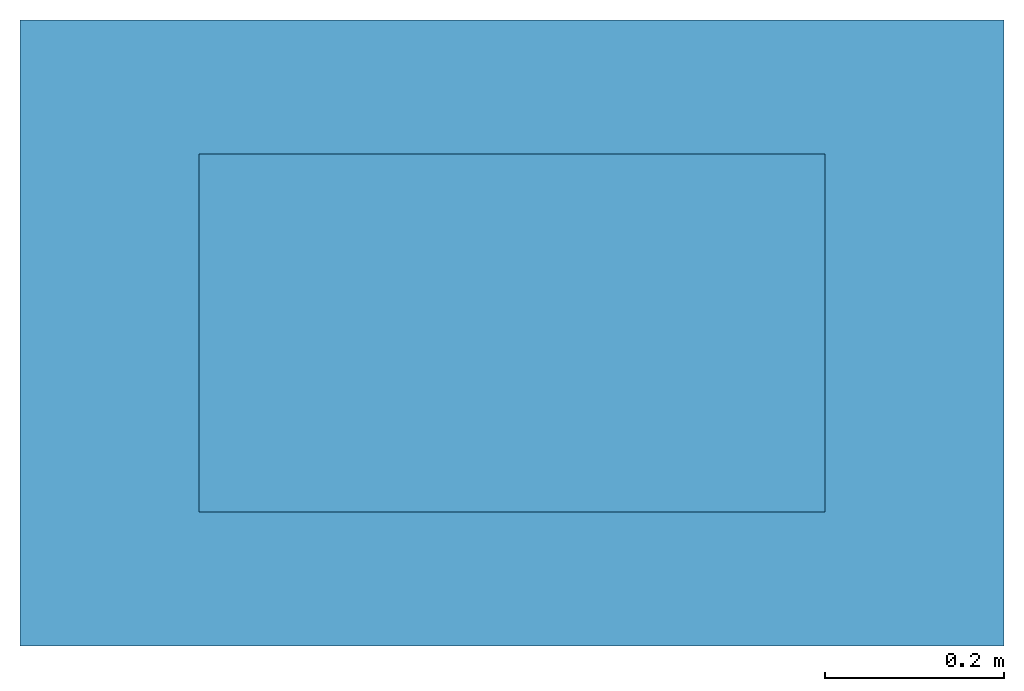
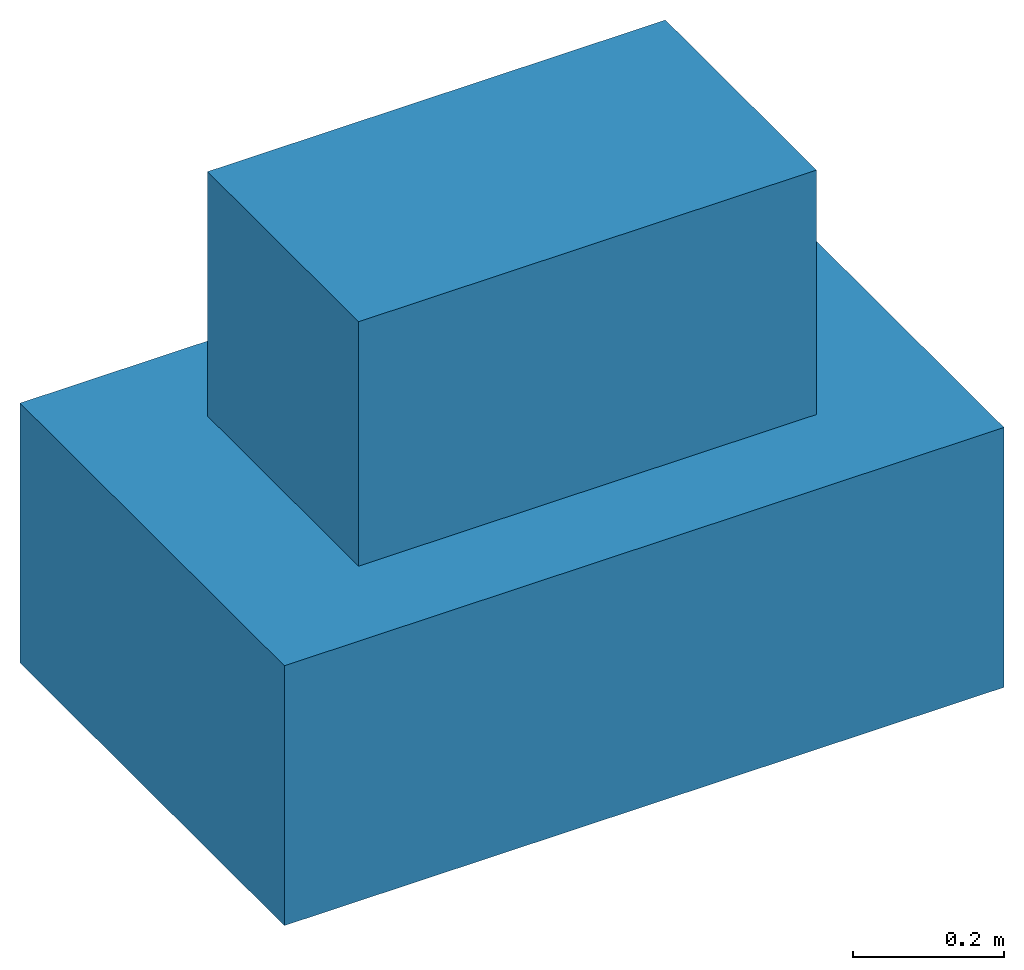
# One storey: 2 columns.
"""IFC2X3 building model written with IfcOpenShell, lengths in millimetres."""

import ifcopenshell
import ifcopenshell.guid

model = None  # the IFC model being written
_history = None  # IfcOwnerHistory: only IFC2X3 demands one
_inside = {}  # id of a spatial element -> (the spatial element, [elements in it])
_under = {}  # id of a project, library or spatial element -> (it, [spatial elements below it])
_declared = {}  # id of a project -> (the project, [libraries it declares])
_typed = {}  # id of a type object -> (the type object, [elements of that type])
_made_of = {}  # id of a material, layer set ... -> (it, [elements and type objects made of it])


def new_model(schema):
    """Start an empty IFC model of exactly this schema.

    Asked for "IFC4X3", IfcOpenShell would pick the latest addendum, in which some entities
    have other attributes; the version numbers below select the first issue.
    IFC2X3 requires an IfcOwnerHistory on every rooted entity: one is made here for all.
    """
    global model, _history
    if schema == "IFC4X3":
        model = ifcopenshell.file(schema_version=(4, 3, 0, 0))
    else:
        model = ifcopenshell.file(schema=schema)
    _inside.clear()
    _under.clear()
    _declared.clear()
    _typed.clear()
    _made_of.clear()
    _history = None
    if model.schema == "IFC2X3":
        org = make("IfcOrganization", Name="unknown")
        user = make(
            "IfcPersonAndOrganization",
            ThePerson=make("IfcPerson", FamilyName="unknown"),
            TheOrganization=org,
        )
        app = make(
            "IfcApplication",
            ApplicationDeveloper=org,
            Version="unknown",
            ApplicationFullName="unknown",
            ApplicationIdentifier="unknown",
        )
        _history = make(
            "IfcOwnerHistory",
            OwningUser=user,
            OwningApplication=app,
            ChangeAction="ADDED",
            CreationDate=0,
        )
    return model


def make(cls, **values):
    """One entity of the class cls with the attributes given. An attribute that is None is left unset."""
    return model.create_entity(
        cls, **{name: value for name, value in values.items() if value is not None}
    )


def entity(cls, *values):
    """Any entity or typed value of the class cls, its attributes in the order of the schema. None: left unset."""
    e = model.create_entity(cls)
    for i, value in enumerate(values):
        if value is not None:
            e[i] = value
    return e


def rooted(cls, **values):
    """An entity with a GlobalId (a new one), such as an element, a storey or a relation."""
    return make(cls, GlobalId=ifcopenshell.guid.new(), OwnerHistory=_history, **values)


def si_unit(unit_type, name, prefix=None):
    """IfcSIUnit, for example si_unit("LENGTHUNIT", "METRE", prefix="MILLI")."""
    return make("IfcSIUnit", UnitType=unit_type, Prefix=prefix, Name=name)


def converted_unit(unit_type, name, factor, base, dimensions=None, offset=None):
    """IfcConversionBasedUnit, such as the inch: factor (a typed value) times the base unit."""
    return make(
        "IfcConversionBasedUnit"
        if offset is None
        else "IfcConversionBasedUnitWithOffset",
        ConversionOffset=offset,
        Dimensions=None
        if dimensions is None
        else entity("IfcDimensionalExponents", *dimensions),
        UnitType=unit_type,
        Name=name,
        ConversionFactor=make(
            "IfcMeasureWithUnit", ValueComponent=factor, UnitComponent=base
        ),
    )


def derived_unit(unit_type, elements):
    """IfcDerivedUnit: a product of units, each with its exponent."""
    return make(
        "IfcDerivedUnit",
        Elements=[
            make("IfcDerivedUnitElement", Unit=unit, Exponent=power)
            for unit, power in elements
        ],
        UnitType=unit_type,
    )


def assignment(units):
    """IfcUnitAssignment: the units of a project."""
    return None if units is None else make("IfcUnitAssignment", Units=units)


def point(xyz):
    """IfcCartesianPoint."""
    return None if xyz is None else make("IfcCartesianPoint", Coordinates=xyz)


def direction(xyz):
    """IfcDirection."""
    return None if xyz is None else make("IfcDirection", DirectionRatios=xyz)


def frame(location, z_axis=None, x_axis=None):
    """IfcAxis2Placement3D, a coordinate frame: its origin and axes. An axis left out is left unset."""
    return make(
        "IfcAxis2Placement3D",
        Location=point(location),
        Axis=direction(z_axis),
        RefDirection=direction(x_axis),
    )


def origin_with_axes():
    """The frame at (0, 0, 0) with the z axis (0, 0, 1) and the x axis (1, 0, 0) written out."""
    return frame((0.0, 0.0, 0.0), z_axis=(0.0, 0.0, 1.0), x_axis=(1.0, 0.0, 0.0))


def place(relative_to, where):
    """IfcLocalPlacement: puts the frame where relative to a parent placement (None: the world)."""
    return make(
        "IfcLocalPlacement", PlacementRelTo=relative_to, RelativePlacement=where
    )


def context(
    kind, dimensions, precision=None, world=None, true_north=None, identifier=None
):
    """IfcGeometricRepresentationContext, for example the 3D "Model" context."""
    return make(
        "IfcGeometricRepresentationContext",
        ContextIdentifier=identifier,
        ContextType=kind,
        CoordinateSpaceDimension=dimensions,
        Precision=precision,
        WorldCoordinateSystem=world,
        TrueNorth=true_north,
    )


def subcontext(parent, identifier, kind, view, scale=None):
    """IfcGeometricRepresentationSubContext, for example "Body" below "Model"."""
    return make(
        "IfcGeometricRepresentationSubContext",
        ContextIdentifier=identifier,
        ContextType=kind,
        ParentContext=parent,
        TargetScale=scale,
        TargetView=view,
    )


def project(units=None, contexts=None):
    """IfcProject with its units and contexts."""
    return rooted(
        "IfcProject",
        Name="project",
        RepresentationContexts=contexts,
        UnitsInContext=assignment(units),
    )


def spatial(cls, under=None, at=None, **own):
    """A site, building, storey or space (cls), placed at a placement, below another one or the project."""
    s = rooted(cls, ObjectPlacement=at, **own)
    if under is not None:
        _under.setdefault(under.id(), (under, []))[1].append(s)
    return s


def faces_of(points, faces, orient=None, outer=None):
    """IfcFace entities. A face is a list of loops; a loop is a list of indices into points, from 0.

    orient and outer hold one flag for each loop. By default every Orientation is true, the
    first loop of a face is its IfcFaceOuterBound and the others are IfcFaceBound.
    """
    made = []
    for i, loops in enumerate(faces):
        bounds = []
        for j, loop in enumerate(loops):
            is_outer = j == 0 if outer is None else outer[i][j]
            bounds.append(
                make(
                    "IfcFaceOuterBound" if is_outer else "IfcFaceBound",
                    Bound=make("IfcPolyLoop", Polygon=[points[k] for k in loop]),
                    Orientation=True if orient is None else orient[i][j],
                )
            )
        made.append(make("IfcFace", Bounds=bounds))
    return made


def faceted_brep(points, faces, orient=None, outer=None, voids=None):
    """IfcFacetedBrep: a solid bounded by flat faces; with voids (closed shells), ...WithVoids."""
    shared = [point(p) for p in points]
    hull = make("IfcClosedShell", CfsFaces=faces_of(shared, faces, orient, outer))
    if voids is None:
        return make("IfcFacetedBrep", Outer=hull)
    return make(
        "IfcFacetedBrepWithVoids",
        Outer=hull,
        Voids=[
            make(cls, CfsFaces=faces_of(shared, fs, o, b)) for cls, fs, o, b in voids
        ],
    )


def shape(context_of_items, identifier, shape_type, items):
    """IfcShapeRepresentation: the items that make up one representation, for example the "Body"."""
    return make(
        "IfcShapeRepresentation",
        ContextOfItems=context_of_items,
        RepresentationIdentifier=identifier,
        RepresentationType=shape_type,
        Items=items,
    )


def material(Name=None, Category=None):
    """IfcMaterial."""
    return make("IfcMaterial", Name=Name, Category=Category)


def made_of(thing, what):
    """Note that an element or type object is made of a material, layer set ...; save() writes the relation."""
    if what is not None:
        _made_of.setdefault(what.id(), (what, []))[1].append(thing)
    return thing


def type_object(cls, material=None, **own):
    """A type object (cls), such as IfcWallType, which elements share."""
    return made_of(rooted(cls, **own), material)


def element(
    cls,
    number,
    at=None,
    inside=None,
    cuts=None,
    type_object=None,
    material=None,
    context=None,
    identifier="Body",
    shape_type=None,
    held_by="IfcProductDefinitionShape",
    body=None,
    shapes=None,
    **own,
):
    """One element of the class cls, such as IfcWall. Its Tag is "e" and its number.

    at: its placement. inside: the storey or other place that contains it. cuts: it is an
    opening in that element (IfcRelVoidsElement). A single representation is given by context,
    identifier, shape_type and body (its items); several are given by shapes. held_by: the class
    of the entity that holds the representations. save() writes the other relations.
    """
    e = rooted(cls, Tag="e%d" % number, ObjectPlacement=at, **own)
    if body is not None:
        shapes = [shape(context, identifier, shape_type, body)]
    if shapes is not None:
        e.Representation = make(held_by, Representations=shapes)
    if inside is not None:
        _inside.setdefault(inside.id(), (inside, []))[1].append(e)
    if cuts is not None:
        rooted(
            "IfcRelVoidsElement", RelatingBuildingElement=cuts, RelatedOpeningElement=e
        )
    if type_object is not None:
        _typed.setdefault(type_object.id(), (type_object, []))[1].append(e)
    return made_of(e, material)


def aggregate(whole, parts):
    """IfcRelAggregates: a whole, such as a stair, and the parts it consists of."""
    return rooted("IfcRelAggregates", RelatingObject=whole, RelatedObjects=parts)


def save(model, path):
    """Write the relations noted so far, then the file.

    IfcRelAggregates (storeys below a building ...), IfcRelContainedInSpatialStructure (elements
    in a storey), IfcRelDefinesByType, IfcRelAssociatesMaterial and IfcRelDeclares: one each for
    every whole, place, type object, material and project.
    """
    for whole, parts in _under.values():
        aggregate(whole, parts)
    for where, things in _inside.values():
        rooted(
            "IfcRelContainedInSpatialStructure",
            RelatedElements=things,
            RelatingStructure=where,
        )
    for kind, things in _typed.values():
        rooted("IfcRelDefinesByType", RelatedObjects=things, RelatingType=kind)
    for what, things in _made_of.values():
        rooted("IfcRelAssociatesMaterial", RelatedObjects=things, RelatingMaterial=what)
    for by, libraries in _declared.values():
        rooted("IfcRelDeclares", RelatingContext=by, RelatedDefinitions=libraries)
    model.write(path)


model = new_model("IFC2X3")

# Units and contexts
model_context = context("Model", 3, precision=0.01, world=frame((0.0, 4.29681676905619e-09, 0.0)), true_north=direction((4.01073788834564e-13, 1.0)))
plan_context = context("Plan", 3, precision=0.01, world=frame((0.0, 4.29681676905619e-09, 0.0)), true_north=direction((4.01073788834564e-13, 1.0)))
body_context = subcontext(model_context, "Body", "Model", "MODEL_VIEW")
ifc_project = project(units=[converted_unit("PLANEANGLEUNIT", "DEGREE", entity("IfcPositiveLengthMeasure", 0.0174532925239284), si_unit("PLANEANGLEUNIT", "RADIAN"), dimensions=[0, 0, 0, 0, 0, 0, 0]), si_unit("AREAUNIT", "SQUARE_METRE"), si_unit("LENGTHUNIT", "METRE", prefix="MILLI"), si_unit("MASSUNIT", "GRAM", prefix="KILO"), si_unit("POWERUNIT", "WATT"), si_unit("PRESSUREUNIT", "PASCAL"), si_unit("FORCEUNIT", "NEWTON", prefix="KILO"), si_unit("ELECTRICCURRENTUNIT", "AMPERE"), si_unit("THERMODYNAMICTEMPERATUREUNIT", "DEGREE_CELSIUS"), si_unit("TIMEUNIT", "SECOND"), si_unit("VOLUMEUNIT", "CUBIC_METRE"), derived_unit("LINEARVELOCITYUNIT", [(si_unit("LENGTHUNIT", "METRE"), 1), (si_unit("TIMEUNIT", "SECOND"), -1)]), derived_unit("VOLUMETRICFLOWRATEUNIT", [(si_unit("VOLUMEUNIT", "CUBIC_METRE"), 1), (si_unit("TIMEUNIT", "SECOND"), -1)]), derived_unit("THERMALTRANSMITTANCEUNIT", [(si_unit("POWERUNIT", "WATT"), 1), (si_unit("THERMODYNAMICTEMPERATUREUNIT", "KELVIN"), -1), (si_unit("AREAUNIT", "SQUARE_METRE"), -1)])], contexts=[model_context, plan_context])

# Site, building, storey
site_placement = place(None, frame((0.0, -4.29681676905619e-09, 0.0), z_axis=(0.0, 0.0, 1.0), x_axis=(1.0, 0.0, 0.0)))
site = spatial("IfcSite", under=ifc_project, at=site_placement, Name="Gardermoen", CompositionType="ELEMENT")
building_placement = place(site_placement, frame((0.0, 4.29681676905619e-09, 0.0), z_axis=(0.0, 0.0, 1.0), x_axis=(1.0, 0.0, 0.0)))
building = spatial("IfcBuilding", under=site, at=building_placement, Name="TS", CompositionType="ELEMENT")
storey_placement = place(building_placement, origin_with_axes())
storey = spatial("IfcBuildingStorey", under=building, at=storey_placement, Name="C", CompositionType="ELEMENT", Elevation=0.0)

# Columns
ifc_material = material(Name="CONCRETE/C45/55")
column_type_1 = type_object("IfcColumnType", Name="400*700", PredefinedType="NOTDEFINED")
column_1_placement = place(storey_placement, frame((529000.0, 414500.0, 203400.0), z_axis=(0.0, 1.0, 0.0), x_axis=(0.0, 0.0, 1.0)))
element("IfcColumn", 1, at=column_1_placement, inside=storey, type_object=column_type_1, material=ifc_material, Name="PREFABSØYLE", ObjectType="400*700", context=body_context, shape_type="Brep", body=[
    faceted_brep([(0.0, 350.0, -200.0), (0.0, 350.0, 200.0), (395.0, 350.0, 200.0), (395.0, 350.0, -200.0), (0.0, -350.0, 200.0), (395.0, -350.0, 200.0), (0.0, -350.0, -200.0), (395.0, -350.0, -200.0)], [[[0, 1, 2, 3]], [[1, 4, 5, 2]], [[4, 6, 7, 5]], [[6, 0, 3, 7]], [[5, 7, 3, 2]], [[6, 4, 1, 0]]]),
])
column_type_2 = type_object("IfcColumnType", Name="700*1100", PredefinedType="NOTDEFINED")
column_2_placement = place(storey_placement, frame((529000.0, 414500.0, 202980.0), z_axis=(0.0, 1.0, 0.0), x_axis=(0.0, 0.0, 1.0)))
element("IfcColumn", 2, at=column_2_placement, inside=storey, type_object=column_type_2, material=ifc_material, Name="PREFABSØYLE", ObjectType="700*1100", context=body_context, shape_type="Brep", body=[
    faceted_brep([(0.0, 550.0, -350.0), (0.0, 550.0, 350.0), (420.0, 550.0, 350.0), (420.0, 550.0, -350.0), (0.0, -550.0, 350.0), (420.0, -550.0, 350.0), (0.0, -550.0, -350.0), (420.0, -550.0, -350.0)], [[[0, 1, 2, 3]], [[1, 4, 5, 2]], [[4, 6, 7, 5]], [[6, 0, 3, 7]], [[5, 7, 3, 2]], [[6, 4, 1, 0]]]),
])

save(model, "model.ifc")
